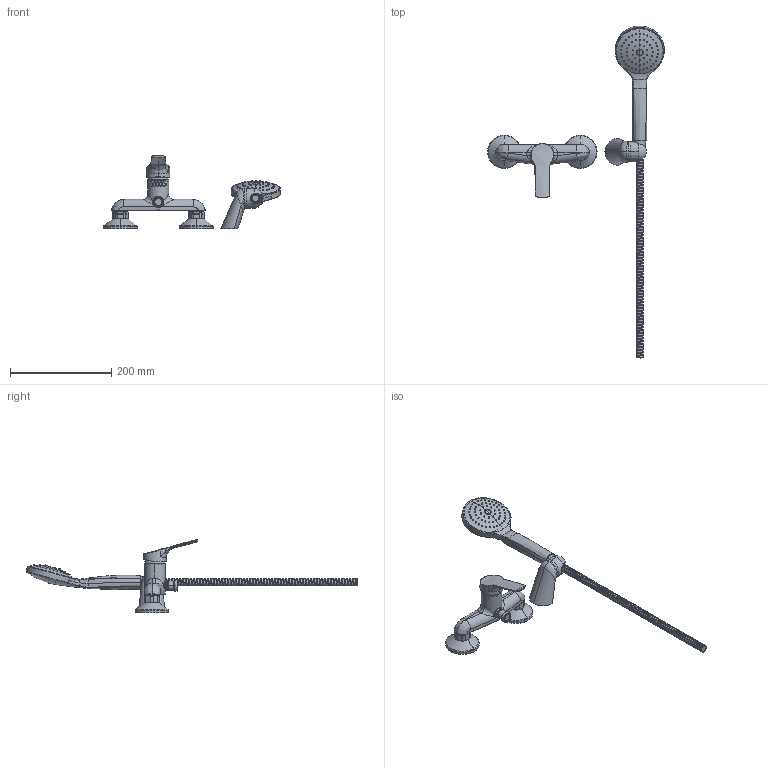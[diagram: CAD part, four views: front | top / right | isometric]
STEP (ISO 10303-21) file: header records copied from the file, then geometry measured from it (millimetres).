
FILE_DESCRIPTION((''),'2;1');
FILE_NAME('3D_CORPO_SW0001','2019-06-13T',('ivanv'),(''),'CREO PARAMETRIC BY PTC INC, 2016260','CREO PARAMETRIC BY PTC INC, 2016260','');
FILE_SCHEMA(('CONFIG_CONTROL_DESIGN'));
Products named in the file (1): 3D_CORPO_SW0001
Bounding box: 348.8 x 655.36 x 145.21 mm (x, y, z)
Volume: 521536.1 mm3; surface area: 176566.5 mm2
Topology: 5 solids, 6 shells, 1790 faces, 4490 edges, 2870 vertices
Faces by surface type: plane 686, cylinder 474, bspline 270, cone 211, sphere 81, torus 45, extrusion 23
Entity records: 116451 total; most frequent: CARTESIAN_POINT 76511, ORIENTED_EDGE 8966, DIRECTION 7017, EDGE_CURVE 4483, VERTEX_POINT 2870, AXIS2_PLACEMENT_3D 2345, VECTOR 2327, LINE 2304
